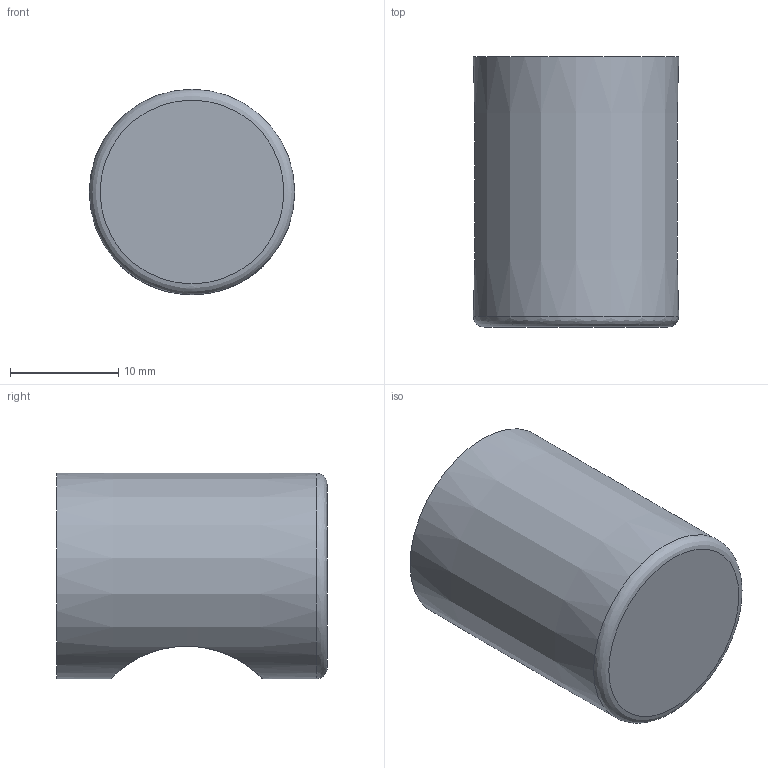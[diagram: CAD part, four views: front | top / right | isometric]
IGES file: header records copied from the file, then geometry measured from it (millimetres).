
Start section: Data from Parasolid IGES Translator 15.0.47, Copyright(c) 2006 Siemens P LM Software. All Rights Reserved.
Global section: file name: 9118951.igs; native system:  By UGS Corp.; preprocessor: XPlus GENERIC/IGES 3.0; author: Noname; organization: Noname; date: 20140122.143018; units: millimetre
Bounding box: 19 x 25 x 19 mm (x, y, z)
Surface area: 2133.5 mm2 (no closed solid volume)
Topology: 0 solids, 0 shells, 8 faces, 28 edges, 22 vertices
Faces by surface type: revolution 5, extrusion 3
